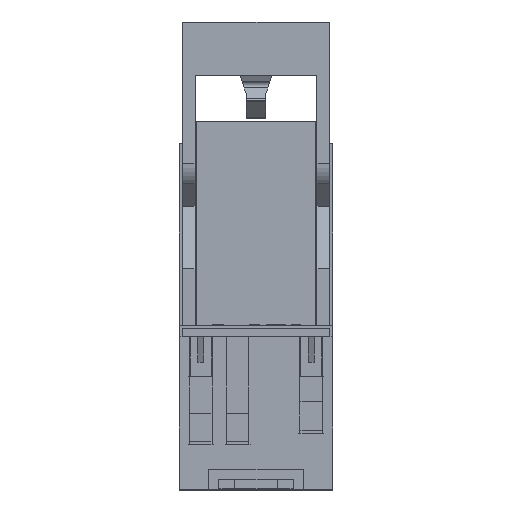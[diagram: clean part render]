
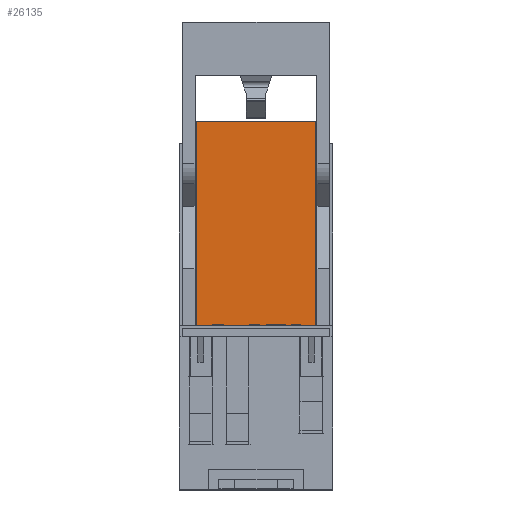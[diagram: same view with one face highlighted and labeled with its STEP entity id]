
A CAD part, top view. The second image highlights one B-rep face of the part: STEP entity #26135.
In plain terms, the highlighted planar face has unit normal (0, 0, 1).
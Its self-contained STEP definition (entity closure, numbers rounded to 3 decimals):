
#12 = EDGE_CURVE ( 'NONE', #35660, #35662, #1801, .T. ) ;
#357 = VECTOR ( 'NONE', #10252, 1000. ) ;
#866 = VECTOR ( 'NONE', #10243, 1000. ) ;
#1801 = LINE ( 'NONE', #1802, #21586 ) ;
#1802 = CARTESIAN_POINT ( 'NONE',  ( -10.5, 28.9, 15.35 ) ) ;
#1803 = DIRECTION ( 'NONE',  ( 1., 0., 0. ) ) ;
#9603 = LINE ( 'NONE', #9604, #42104 ) ;
#9604 = CARTESIAN_POINT ( 'NONE',  ( -10.5, 64.9, 15.35 ) ) ;
#9605 = DIRECTION ( 'NONE',  ( 1., 0., 0. ) ) ;
#10241 = LINE ( 'NONE', #10242, #866 ) ;
#10242 = CARTESIAN_POINT ( 'NONE',  ( -10.5, 64.9, 15.35 ) ) ;
#10243 = DIRECTION ( 'NONE',  ( 0., -1., 0. ) ) ;
#10250 = LINE ( 'NONE', #10251, #357 ) ;
#10251 = CARTESIAN_POINT ( 'NONE',  ( 10.5, 64.9, 15.35 ) ) ;
#10252 = DIRECTION ( 'NONE',  ( 0., -1., 0. ) ) ;
#14473 = AXIS2_PLACEMENT_3D ( 'NONE', #15588, #15589, #15590 ) ;
#14478 = FACE_OUTER_BOUND ( 'NONE', #27704, .T. ) ;
#15587 = PLANE ( 'NONE',  #14473 ) ;
#15588 = CARTESIAN_POINT ( 'NONE',  ( -10.5, 64.9, 15.35 ) ) ;
#15589 = DIRECTION ( 'NONE',  ( 0., 0., -1. ) ) ;
#15590 = DIRECTION ( 'NONE',  ( -1., 0., 0. ) ) ;
#21586 = VECTOR ( 'NONE', #1803, 1000. ) ;
#25388 = EDGE_CURVE ( 'NONE', #36256, #36259, #9603, .T. ) ;
#25588 = EDGE_CURVE ( 'NONE', #36256, #35660, #10241, .T. ) ;
#25591 = EDGE_CURVE ( 'NONE', #36259, #35662, #10250, .T. ) ;
#26135 = ADVANCED_FACE ( 'NONE', ( #14478 ), #15587, .F. ) ;
#27012 = ORIENTED_EDGE ( 'NONE', *, *, #25388, .F. ) ;
#27021 = ORIENTED_EDGE ( 'NONE', *, *, #25591, .F. ) ;
#27025 = ORIENTED_EDGE ( 'NONE', *, *, #25588, .T. ) ;
#27156 = ORIENTED_EDGE ( 'NONE', *, *, #12, .T. ) ;
#27704 = EDGE_LOOP ( 'NONE', ( #27156, #27021, #27012, #27025 ) ) ;
#35660 = VERTEX_POINT ( 'NONE', #46848 ) ;
#35662 = VERTEX_POINT ( 'NONE', #46852 ) ;
#36256 = VERTEX_POINT ( 'NONE', #48040 ) ;
#36259 = VERTEX_POINT ( 'NONE', #48046 ) ;
#42104 = VECTOR ( 'NONE', #9605, 1000. ) ;
#46848 = CARTESIAN_POINT ( 'NONE',  ( -10.5, 28.9, 15.35 ) ) ;
#46852 = CARTESIAN_POINT ( 'NONE',  ( 10.5, 28.9, 15.35 ) ) ;
#48040 = CARTESIAN_POINT ( 'NONE',  ( -10.5, 64.9, 15.35 ) ) ;
#48046 = CARTESIAN_POINT ( 'NONE',  ( 10.5, 64.9, 15.35 ) ) ;
